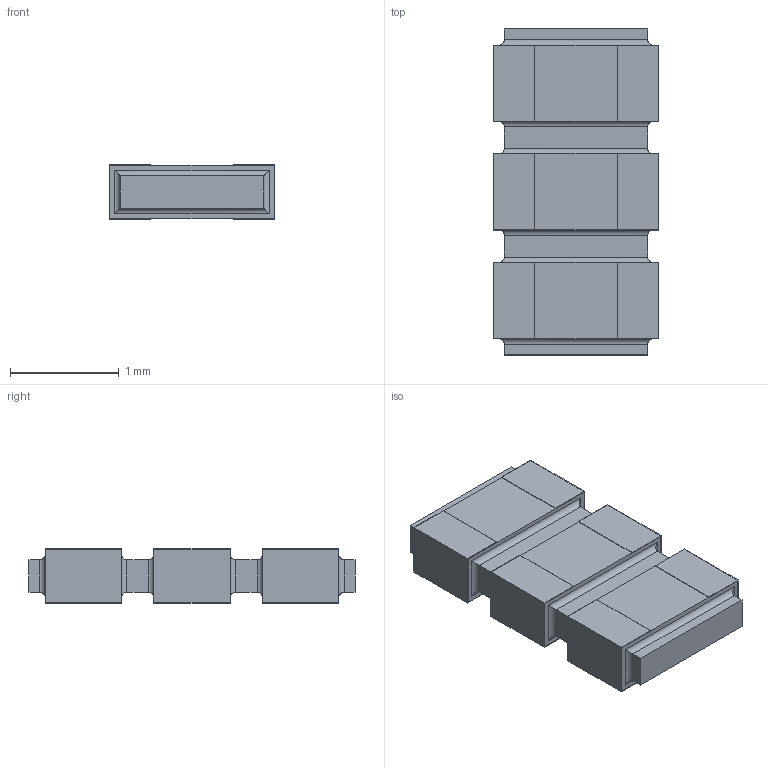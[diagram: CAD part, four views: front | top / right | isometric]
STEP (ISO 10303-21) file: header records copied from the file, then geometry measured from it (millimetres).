
FILE_DESCRIPTION(/* description */ (''),/* implementation_level */ '2;1');
FILE_NAME(/* name */ 'S:\DOCUMENT\AUTOCAD\3D_Modèles\10_3D-pour-VISHAY-COM\PRA\PRA100\PRA100-I2_à_I8\20_STEP\PRA100I3_B-or-N-or-G.stp',/* time_stamp */ '2017-12-18T09:15:31+01:00',/* author */ ('dparmentier'),/* organization */ ('unknown'),/* preprocessor_version */ 'ST-DEVELOPER v17',/* originating_system */ 'Autodesk Inventor 2018',/* authorisation */ '');
FILE_SCHEMA (('AUTOMOTIVE_DESIGN { 1 0 10303 214 3 1 1 }'));
Length unit declared in the file: millimetre
Products named in the file (1): PRA100I3_B-or-N-or-G
Bounding box: 1.52 x 3 x 0.5 mm (x, y, z)
Volume: 1.9 mm3; surface area: 24.4 mm2
Topology: 7 solids, 7 shells, 120 faces, 276 edges, 176 vertices
Faces by surface type: plane 96, cylinder 24
Entity records: 3359 total; most frequent: CARTESIAN_POINT 573, ORIENTED_EDGE 552, DIRECTION 542, EDGE_CURVE 276, LINE 252, VECTOR 252, VERTEX_POINT 176, AXIS2_PLACEMENT_3D 145
